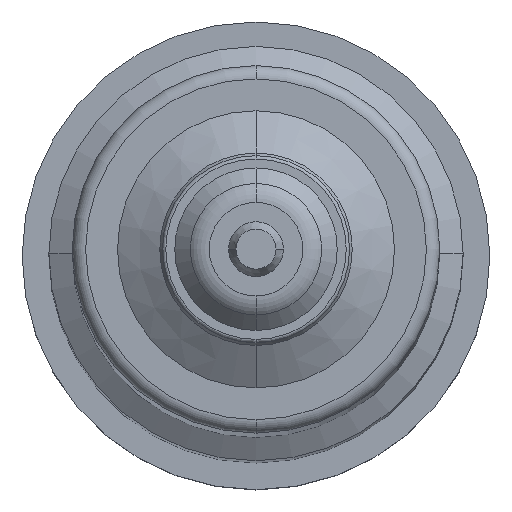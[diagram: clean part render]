
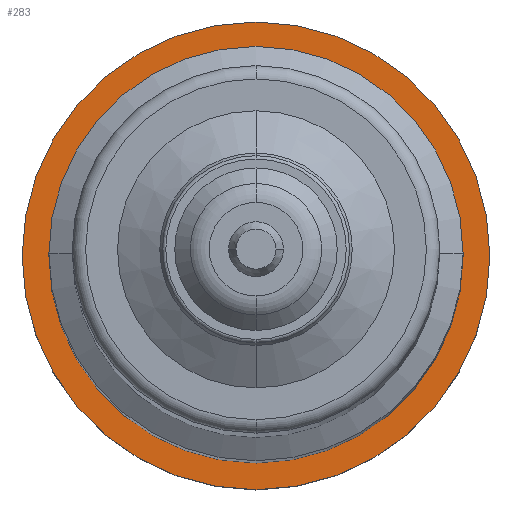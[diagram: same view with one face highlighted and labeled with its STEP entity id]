
A CAD part, top view. The second image highlights one B-rep face of the part: STEP entity #283.
In plain terms, the highlighted planar face has unit normal (0, 0, 1).
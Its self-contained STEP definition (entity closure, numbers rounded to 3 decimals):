
#5 = EDGE_CURVE ( 'NONE', #278, #638, #716, .T. ) ;
#12 = DIRECTION ( 'NONE',  ( 0., 0., 1. ) ) ;
#16 = ORIENTED_EDGE ( 'NONE', *, *, #387, .F. ) ;
#55 = ORIENTED_EDGE ( 'NONE', *, *, #5, .F. ) ;
#60 = CARTESIAN_POINT ( 'NONE',  ( 35., 0., 35. ) ) ;
#166 = CARTESIAN_POINT ( 'NONE',  ( -35., 0., 35. ) ) ;
#170 = CARTESIAN_POINT ( 'NONE',  ( 0., 0., 35. ) ) ;
#175 = CIRCLE ( 'NONE', #571, 35. ) ;
#178 = ORIENTED_EDGE ( 'NONE', *, *, #520, .T. ) ;
#181 = DIRECTION ( 'NONE',  ( -1., 0., 0. ) ) ;
#219 = VERTEX_POINT ( 'NONE', #60 ) ;
#229 = DIRECTION ( 'NONE',  ( 0., 0., 1. ) ) ;
#231 = CARTESIAN_POINT ( 'NONE',  ( -31., 0., 35. ) ) ;
#244 = AXIS2_PLACEMENT_3D ( 'NONE', #884, #372, #301 ) ;
#278 = VERTEX_POINT ( 'NONE', #522 ) ;
#283 = ADVANCED_FACE ( 'NONE', ( #369, #783 ), #820, .T. ) ;
#301 = DIRECTION ( 'NONE',  ( -1., 0., 0. ) ) ;
#369 = FACE_BOUND ( 'NONE', #880, .T. ) ;
#372 = DIRECTION ( 'NONE',  ( 0., 0., 1. ) ) ;
#387 = EDGE_CURVE ( 'NONE', #638, #278, #650, .T. ) ;
#402 = AXIS2_PLACEMENT_3D ( 'NONE', #556, #775, #495 ) ;
#446 = CIRCLE ( 'NONE', #742, 35. ) ;
#465 = ORIENTED_EDGE ( 'NONE', *, *, #628, .T. ) ;
#495 = DIRECTION ( 'NONE',  ( -1., 0., 0. ) ) ;
#503 = AXIS2_PLACEMENT_3D ( 'NONE', #658, #229, #181 ) ;
#520 = EDGE_CURVE ( 'NONE', #569, #219, #175, .T. ) ;
#522 = CARTESIAN_POINT ( 'NONE',  ( 31., 0., 35. ) ) ;
#556 = CARTESIAN_POINT ( 'NONE',  ( 0., 0., 35. ) ) ;
#568 = EDGE_LOOP ( 'NONE', ( #465, #178 ) ) ;
#569 = VERTEX_POINT ( 'NONE', #166 ) ;
#571 = AXIS2_PLACEMENT_3D ( 'NONE', #778, #635, #632 ) ;
#628 = EDGE_CURVE ( 'NONE', #219, #569, #446, .T. ) ;
#632 = DIRECTION ( 'NONE',  ( -1., 0., 0. ) ) ;
#635 = DIRECTION ( 'NONE',  ( 0., 0., 1. ) ) ;
#638 = VERTEX_POINT ( 'NONE', #231 ) ;
#650 = CIRCLE ( 'NONE', #402, 31. ) ;
#658 = CARTESIAN_POINT ( 'NONE',  ( 0., 0., 35. ) ) ;
#716 = CIRCLE ( 'NONE', #503, 31. ) ;
#731 = DIRECTION ( 'NONE',  ( -1., 0., 0. ) ) ;
#742 = AXIS2_PLACEMENT_3D ( 'NONE', #170, #12, #731 ) ;
#775 = DIRECTION ( 'NONE',  ( 0., 0., 1. ) ) ;
#778 = CARTESIAN_POINT ( 'NONE',  ( 0., 0., 35. ) ) ;
#783 = FACE_OUTER_BOUND ( 'NONE', #568, .T. ) ;
#820 = PLANE ( 'NONE',  #244 ) ;
#880 = EDGE_LOOP ( 'NONE', ( #55, #16 ) ) ;
#884 = CARTESIAN_POINT ( 'NONE',  ( 0., 0., 35. ) ) ;
